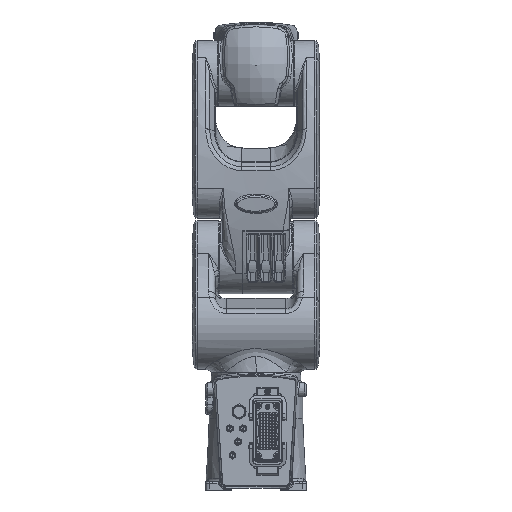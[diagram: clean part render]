
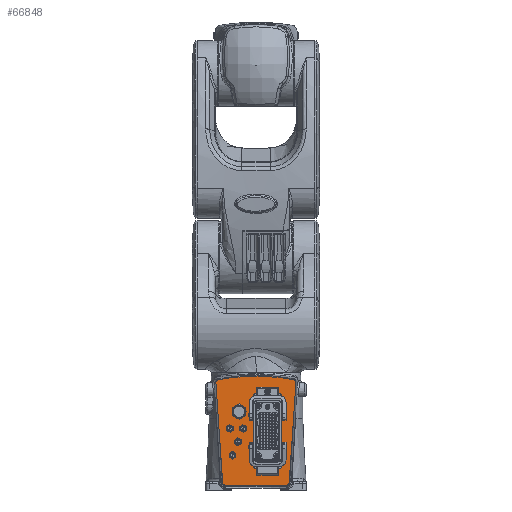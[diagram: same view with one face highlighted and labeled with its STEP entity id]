
A CAD part, left-side view. The second image highlights one B-rep face of the part: STEP entity #66848.
In plain terms, the highlighted planar face has unit normal (-1, 0, 0).
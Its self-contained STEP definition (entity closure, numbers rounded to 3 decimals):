
#317 = ORIENTED_EDGE ( 'NONE', *, *, #58123, .T. ) ;
#1436 = CIRCLE ( 'NONE', #109851, 4. ) ;
#2574 = CIRCLE ( 'NONE', #23585, 300. ) ;
#5243 = EDGE_CURVE ( 'NONE', #127260, #6325, #77664, .T. ) ;
#6325 = VERTEX_POINT ( 'NONE', #106732 ) ;
#6874 = PLANE ( 'NONE',  #115665 ) ;
#10969 = DIRECTION ( 'NONE',  ( 0., 0., -1. ) ) ;
#11159 = DIRECTION ( 'NONE',  ( 0., 0., -1. ) ) ;
#16615 = DIRECTION ( 'NONE',  ( -1., 0., 0. ) ) ;
#20263 = CARTESIAN_POINT ( 'NONE',  ( -110., 56.675, 164.683 ) ) ;
#21155 = DIRECTION ( 'NONE',  ( 0., 0., -1. ) ) ;
#23585 = AXIS2_PLACEMENT_3D ( 'NONE', #25672, #34646, #11159 ) ;
#25672 = CARTESIAN_POINT ( 'NONE',  ( -110., 0.147, -129.944 ) ) ;
#27394 = CARTESIAN_POINT ( 'NONE',  ( -110., 49.897, 10.728 ) ) ;
#31461 = ORIENTED_EDGE ( 'NONE', *, *, #88468, .T. ) ;
#32670 = CIRCLE ( 'NONE', #135991, 300. ) ;
#32864 = DIRECTION ( 'NONE',  ( -1., 0., 0. ) ) ;
#34646 = DIRECTION ( 'NONE',  ( -1., 0., 0. ) ) ;
#35749 = ORIENTED_EDGE ( 'NONE', *, *, #58845, .T. ) ;
#41974 = LINE ( 'NONE', #137447, #148382 ) ;
#44885 = DIRECTION ( 'NONE',  ( 0., 0., -1. ) ) ;
#48949 = VERTEX_POINT ( 'NONE', #27394 ) ;
#51113 = ORIENTED_EDGE ( 'NONE', *, *, #112630, .T. ) ;
#54099 = VECTOR ( 'NONE', #154309, 1000. ) ;
#54585 = EDGE_LOOP ( 'NONE', ( #317, #113800, #70839, #136917, #51113, #85609, #31461, #35749, #119733 ) ) ;
#56690 = DIRECTION ( 'NONE',  ( -1., 0., 0. ) ) ;
#58123 = EDGE_CURVE ( 'NONE', #69729, #127260, #119577, .T. ) ;
#58845 = EDGE_CURVE ( 'NONE', #69709, #66534, #41974, .T. ) ;
#60350 = EDGE_CURVE ( 'NONE', #6325, #67730, #2574, .T. ) ;
#60419 = VECTOR ( 'NONE', #79195, 1000. ) ;
#62220 = DIRECTION ( 'NONE',  ( 0., 0., -1. ) ) ;
#62315 = CARTESIAN_POINT ( 'NONE',  ( -110., -45.612, 10.995 ) ) ;
#65025 = EDGE_CURVE ( 'NONE', #67730, #72710, #32670, .T. ) ;
#66534 = VERTEX_POINT ( 'NONE', #128427 ) ;
#66848 = ADVANCED_FACE ( 'NONE', ( #79680 ), #6874, .T. ) ;
#67730 = VERTEX_POINT ( 'NONE', #82096 ) ;
#68538 = VERTEX_POINT ( 'NONE', #132435 ) ;
#68875 = CIRCLE ( 'NONE', #86860, 4. ) ;
#69709 = VERTEX_POINT ( 'NONE', #122049 ) ;
#69729 = VERTEX_POINT ( 'NONE', #109107 ) ;
#70839 = ORIENTED_EDGE ( 'NONE', *, *, #60350, .T. ) ;
#71195 = EDGE_CURVE ( 'NONE', #68538, #48949, #155099, .T. ) ;
#72710 = VERTEX_POINT ( 'NONE', #20263 ) ;
#77664 = CIRCLE ( 'NONE', #85422, 4. ) ;
#79195 = DIRECTION ( 'NONE',  ( 0., -0.067, 0.998 ) ) ;
#79680 = FACE_OUTER_BOUND ( 'NONE', #54585, .T. ) ;
#82096 = CARTESIAN_POINT ( 'NONE',  ( -110., 0.147, 170.056 ) ) ;
#82630 = CARTESIAN_POINT ( 'NONE',  ( -110., -55.627, 160.754 ) ) ;
#85422 = AXIS2_PLACEMENT_3D ( 'NONE', #82630, #119040, #21155 ) ;
#85609 = ORIENTED_EDGE ( 'NONE', *, *, #71195, .T. ) ;
#86609 = DIRECTION ( 'NONE',  ( -1., 0., 0. ) ) ;
#86860 = AXIS2_PLACEMENT_3D ( 'NONE', #137422, #147977, #62220 ) ;
#88468 = EDGE_CURVE ( 'NONE', #48949, #69709, #68875, .T. ) ;
#106025 = DIRECTION ( 'NONE',  ( 0., 0., -1. ) ) ;
#106560 = CARTESIAN_POINT ( 'NONE',  ( -110., 49.647, 6.995 ) ) ;
#106669 = AXIS2_PLACEMENT_3D ( 'NONE', #119390, #32864, #10969 ) ;
#106732 = CARTESIAN_POINT ( 'NONE',  ( -110., -56.381, 164.683 ) ) ;
#109107 = CARTESIAN_POINT ( 'NONE',  ( -110., -49.603, 10.728 ) ) ;
#109210 = CIRCLE ( 'NONE', #106669, 4. ) ;
#109851 = AXIS2_PLACEMENT_3D ( 'NONE', #62315, #86609, #135141 ) ;
#112630 = EDGE_CURVE ( 'NONE', #72710, #68538, #109210, .T. ) ;
#113800 = ORIENTED_EDGE ( 'NONE', *, *, #5243, .T. ) ;
#115584 = DIRECTION ( 'NONE',  ( 0., -1., 0. ) ) ;
#115665 = AXIS2_PLACEMENT_3D ( 'NONE', #143560, #16615, #44885 ) ;
#119040 = DIRECTION ( 'NONE',  ( -1., 0., 0. ) ) ;
#119390 = CARTESIAN_POINT ( 'NONE',  ( -110., 55.921, 160.754 ) ) ;
#119577 = LINE ( 'NONE', #129343, #60419 ) ;
#119686 = CARTESIAN_POINT ( 'NONE',  ( -110., -59.618, 160.487 ) ) ;
#119733 = ORIENTED_EDGE ( 'NONE', *, *, #130600, .T. ) ;
#119751 = CARTESIAN_POINT ( 'NONE',  ( -110., 0.147, -129.944 ) ) ;
#122049 = CARTESIAN_POINT ( 'NONE',  ( -110., 45.906, 6.995 ) ) ;
#127260 = VERTEX_POINT ( 'NONE', #119686 ) ;
#128427 = CARTESIAN_POINT ( 'NONE',  ( -110., -45.612, 6.995 ) ) ;
#129343 = CARTESIAN_POINT ( 'NONE',  ( -110., -49.353, 6.995 ) ) ;
#130600 = EDGE_CURVE ( 'NONE', #66534, #69729, #1436, .T. ) ;
#132435 = CARTESIAN_POINT ( 'NONE',  ( -110., 59.912, 160.487 ) ) ;
#135141 = DIRECTION ( 'NONE',  ( 0., 0., -1. ) ) ;
#135991 = AXIS2_PLACEMENT_3D ( 'NONE', #119751, #56690, #106025 ) ;
#136917 = ORIENTED_EDGE ( 'NONE', *, *, #65025, .T. ) ;
#137422 = CARTESIAN_POINT ( 'NONE',  ( -110., 45.906, 10.995 ) ) ;
#137447 = CARTESIAN_POINT ( 'NONE',  ( -110., 49.647, 6.995 ) ) ;
#143560 = CARTESIAN_POINT ( 'NONE',  ( -110., 0.147, -129.944 ) ) ;
#147977 = DIRECTION ( 'NONE',  ( -1., 0., 0. ) ) ;
#148382 = VECTOR ( 'NONE', #115584, 1000. ) ;
#154309 = DIRECTION ( 'NONE',  ( 0., -0.067, -0.998 ) ) ;
#155099 = LINE ( 'NONE', #106560, #54099 ) ;
